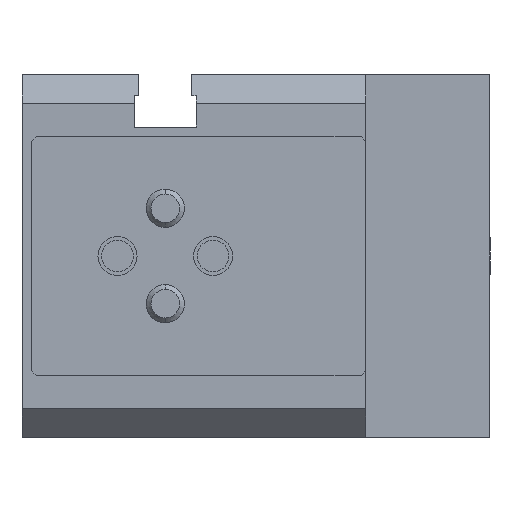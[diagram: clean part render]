
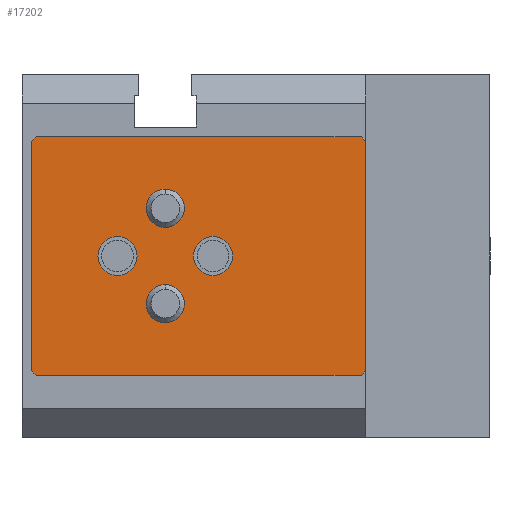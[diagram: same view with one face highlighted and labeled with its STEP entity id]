
A CAD part, left-side view. The second image highlights one B-rep face of the part: STEP entity #17202.
In plain terms, the highlighted planar face has unit normal (-1, 0, 0) as drawn and (1, 0, 0) by its records, which use the part's own axes.
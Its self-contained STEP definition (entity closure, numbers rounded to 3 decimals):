
#550 = ORIENTED_EDGE ( 'NONE', *, *, #3940, .T. ) ;
#817 = LINE ( 'NONE', #18068, #41611 ) ;
#886 = DIRECTION ( 'NONE',  ( 0., -1., 0. ) ) ;
#1083 = DIRECTION ( 'NONE',  ( 1., 0., 0. ) ) ;
#1132 = EDGE_CURVE ( 'NONE', #17517, #41977, #31952, .T. ) ;
#1932 = ORIENTED_EDGE ( 'NONE', *, *, #12465, .F. ) ;
#2385 = FACE_OUTER_BOUND ( 'NONE', #19472, .T. ) ;
#2740 = VERTEX_POINT ( 'NONE', #44765 ) ;
#2803 = DIRECTION ( 'NONE',  ( 1., 0., 0. ) ) ;
#2876 = CIRCLE ( 'NONE', #10666, 2.05 ) ;
#2929 = DIRECTION ( 'NONE',  ( 0., 0., -1. ) ) ;
#3118 = VERTEX_POINT ( 'NONE', #35902 ) ;
#3940 = EDGE_CURVE ( 'NONE', #22916, #3118, #42949, .T. ) ;
#4089 = AXIS2_PLACEMENT_3D ( 'NONE', #28922, #5237, #32903 ) ;
#4923 = CARTESIAN_POINT ( 'NONE',  ( 0., 26., -2.05 ) ) ;
#5030 = ORIENTED_EDGE ( 'NONE', *, *, #23771, .F. ) ;
#5049 = EDGE_LOOP ( 'NONE', ( #18552, #29722 ) ) ;
#5214 = DIRECTION ( 'NONE',  ( 0., 0., 1. ) ) ;
#5237 = DIRECTION ( 'NONE',  ( 1., 0., 0. ) ) ;
#6167 = CARTESIAN_POINT ( 'NONE',  ( 0., 21., 5. ) ) ;
#6341 = VERTEX_POINT ( 'NONE', #28539 ) ;
#7623 = CIRCLE ( 'NONE', #4089, 2. ) ;
#8153 = CARTESIAN_POINT ( 'NONE',  ( 0., 21., 3. ) ) ;
#8272 = CIRCLE ( 'NONE', #40607, 2.05 ) ;
#8410 = CARTESIAN_POINT ( 'NONE',  ( 0., 34.5, -12.5 ) ) ;
#8839 = CARTESIAN_POINT ( 'NONE',  ( 0., 0., -12.5 ) ) ;
#9046 = DIRECTION ( 'NONE',  ( 1., 0., 0. ) ) ;
#9711 = LINE ( 'NONE', #8839, #18995 ) ;
#10164 = DIRECTION ( 'NONE',  ( 0., 0., 1. ) ) ;
#10276 = CARTESIAN_POINT ( 'NONE',  ( 0., 0.5, -12.5 ) ) ;
#10418 = FACE_BOUND ( 'NONE', #16002, .T. ) ;
#10666 = AXIS2_PLACEMENT_3D ( 'NONE', #26493, #2803, #30463 ) ;
#11222 = VECTOR ( 'NONE', #2929, 1000. ) ;
#11569 = CARTESIAN_POINT ( 'NONE',  ( 0., 35., 12. ) ) ;
#11622 = CARTESIAN_POINT ( 'NONE',  ( 0., 0., 12.5 ) ) ;
#11637 = EDGE_CURVE ( 'NONE', #41977, #17517, #31069, .T. ) ;
#11857 = LINE ( 'NONE', #11622, #19906 ) ;
#11925 = ORIENTED_EDGE ( 'NONE', *, *, #30786, .F. ) ;
#12465 = EDGE_CURVE ( 'NONE', #18026, #28420, #21172, .T. ) ;
#12876 = CARTESIAN_POINT ( 'NONE',  ( 0., 0.5, -12.5 ) ) ;
#12933 = LINE ( 'NONE', #27363, #43218 ) ;
#12980 = EDGE_CURVE ( 'NONE', #15564, #3118, #26714, .T. ) ;
#13028 = VECTOR ( 'NONE', #50449, 1000. ) ;
#13787 = ORIENTED_EDGE ( 'NONE', *, *, #28714, .F. ) ;
#13972 = ORIENTED_EDGE ( 'NONE', *, *, #21425, .F. ) ;
#14168 = DIRECTION ( 'NONE',  ( 1., 0., 0. ) ) ;
#14278 = LINE ( 'NONE', #50276, #13028 ) ;
#14293 = DIRECTION ( 'NONE',  ( 0., -0.707, 0.707 ) ) ;
#15532 = CARTESIAN_POINT ( 'NONE',  ( 0., 21., -7. ) ) ;
#15564 = VERTEX_POINT ( 'NONE', #11569 ) ;
#15699 = CARTESIAN_POINT ( 'NONE',  ( 0., 21., -5. ) ) ;
#15836 = CARTESIAN_POINT ( 'NONE',  ( 0., 0.5, 12.5 ) ) ;
#15876 = CARTESIAN_POINT ( 'NONE',  ( 0., 26., 0. ) ) ;
#16002 = EDGE_LOOP ( 'NONE', ( #18638, #41620 ) ) ;
#16531 = ORIENTED_EDGE ( 'NONE', *, *, #29591, .F. ) ;
#16613 = AXIS2_PLACEMENT_3D ( 'NONE', #32714, #9046, #36715 ) ;
#17111 = EDGE_CURVE ( 'NONE', #15564, #6341, #12933, .T. ) ;
#17202 = ADVANCED_FACE ( 'NONE', ( #10418, #2385, #51299, #40744, #30217 ), #44630, .F. ) ;
#17517 = VERTEX_POINT ( 'NONE', #40251 ) ;
#18026 = VERTEX_POINT ( 'NONE', #12876 ) ;
#18068 = CARTESIAN_POINT ( 'NONE',  ( 0., 0., 12. ) ) ;
#18552 = ORIENTED_EDGE ( 'NONE', *, *, #47817, .F. ) ;
#18638 = ORIENTED_EDGE ( 'NONE', *, *, #1132, .F. ) ;
#18995 = VECTOR ( 'NONE', #886, 1000. ) ;
#19320 = CIRCLE ( 'NONE', #48361, 2. ) ;
#19472 = EDGE_LOOP ( 'NONE', ( #1932, #13972, #550, #39799, #19904, #21079, #16531, #43578 ) ) ;
#19501 = DIRECTION ( 'NONE',  ( 0., 0.707, 0.707 ) ) ;
#19519 = VERTEX_POINT ( 'NONE', #45993 ) ;
#19638 = DIRECTION ( 'NONE',  ( 0., 0., 1. ) ) ;
#19816 = DIRECTION ( 'NONE',  ( 0., 0., -1. ) ) ;
#19904 = ORIENTED_EDGE ( 'NONE', *, *, #17111, .T. ) ;
#19906 = VECTOR ( 'NONE', #39141, 1000. ) ;
#20792 = CARTESIAN_POINT ( 'NONE',  ( 0., 35., 12.5 ) ) ;
#21079 = ORIENTED_EDGE ( 'NONE', *, *, #31383, .F. ) ;
#21172 = LINE ( 'NONE', #10276, #40941 ) ;
#21425 = EDGE_CURVE ( 'NONE', #22916, #18026, #9711, .T. ) ;
#22033 = DIRECTION ( 'NONE',  ( 0., 0.707, 0.707 ) ) ;
#22916 = VERTEX_POINT ( 'NONE', #8410 ) ;
#23402 = AXIS2_PLACEMENT_3D ( 'NONE', #15699, #43306, #19638 ) ;
#23771 = EDGE_CURVE ( 'NONE', #46572, #19519, #42388, .T. ) ;
#24779 = CARTESIAN_POINT ( 'NONE',  ( 0., 21., -5. ) ) ;
#26183 = EDGE_LOOP ( 'NONE', ( #11925, #13787 ) ) ;
#26493 = CARTESIAN_POINT ( 'NONE',  ( 0., 16., 0. ) ) ;
#26714 = LINE ( 'NONE', #34760, #11222 ) ;
#26980 = CARTESIAN_POINT ( 'NONE',  ( 0., 21., 7. ) ) ;
#27363 = CARTESIAN_POINT ( 'NONE',  ( 0., 35., 12. ) ) ;
#27533 = DIRECTION ( 'NONE',  ( 0., -0.707, 0.707 ) ) ;
#27713 = CARTESIAN_POINT ( 'NONE',  ( 0., 16., 2.05 ) ) ;
#28420 = VERTEX_POINT ( 'NONE', #29470 ) ;
#28539 = CARTESIAN_POINT ( 'NONE',  ( 0., 34.5, 12.5 ) ) ;
#28714 = EDGE_CURVE ( 'NONE', #35728, #37652, #7623, .T. ) ;
#28767 = DIRECTION ( 'NONE',  ( 0., 0., 1. ) ) ;
#28898 = CARTESIAN_POINT ( 'NONE',  ( 0., 26., 2.05 ) ) ;
#28904 = DIRECTION ( 'NONE',  ( -1., 0., 0. ) ) ;
#28922 = CARTESIAN_POINT ( 'NONE',  ( 0., 21., 5. ) ) ;
#29470 = CARTESIAN_POINT ( 'NONE',  ( 0., 0., -12. ) ) ;
#29591 = EDGE_CURVE ( 'NONE', #2740, #32999, #817, .T. ) ;
#29722 = ORIENTED_EDGE ( 'NONE', *, *, #36184, .F. ) ;
#30217 = FACE_BOUND ( 'NONE', #26183, .T. ) ;
#30463 = DIRECTION ( 'NONE',  ( 0., 0., -1. ) ) ;
#30786 = EDGE_CURVE ( 'NONE', #37652, #35728, #19320, .T. ) ;
#31069 = CIRCLE ( 'NONE', #47283, 2. ) ;
#31106 = EDGE_LOOP ( 'NONE', ( #36751, #5030 ) ) ;
#31383 = EDGE_CURVE ( 'NONE', #32999, #6341, #11857, .T. ) ;
#31952 = CIRCLE ( 'NONE', #23402, 2. ) ;
#32147 = AXIS2_PLACEMENT_3D ( 'NONE', #20792, #28904, #5214 ) ;
#32714 = CARTESIAN_POINT ( 'NONE',  ( 0., 26., 0. ) ) ;
#32903 = DIRECTION ( 'NONE',  ( 0., 0., 1. ) ) ;
#32999 = VERTEX_POINT ( 'NONE', #15836 ) ;
#33851 = DIRECTION ( 'NONE',  ( 1., 0., 0. ) ) ;
#34760 = CARTESIAN_POINT ( 'NONE',  ( 0., 35., 12.5 ) ) ;
#35363 = EDGE_CURVE ( 'NONE', #28420, #2740, #14278, .T. ) ;
#35728 = VERTEX_POINT ( 'NONE', #8153 ) ;
#35902 = CARTESIAN_POINT ( 'NONE',  ( 0., 35., -12. ) ) ;
#36184 = EDGE_CURVE ( 'NONE', #41103, #51259, #50750, .T. ) ;
#36715 = DIRECTION ( 'NONE',  ( 0., 0., -1. ) ) ;
#36751 = ORIENTED_EDGE ( 'NONE', *, *, #40797, .F. ) ;
#37652 = VERTEX_POINT ( 'NONE', #26980 ) ;
#37846 = CARTESIAN_POINT ( 'NONE',  ( 0., 16., 0. ) ) ;
#39141 = DIRECTION ( 'NONE',  ( 0., 1., 0. ) ) ;
#39799 = ORIENTED_EDGE ( 'NONE', *, *, #12980, .F. ) ;
#40251 = CARTESIAN_POINT ( 'NONE',  ( 0., 21., -3. ) ) ;
#40607 = AXIS2_PLACEMENT_3D ( 'NONE', #15876, #43496, #19816 ) ;
#40744 = FACE_BOUND ( 'NONE', #5049, .T. ) ;
#40797 = EDGE_CURVE ( 'NONE', #19519, #46572, #2876, .T. ) ;
#40941 = VECTOR ( 'NONE', #14293, 1000. ) ;
#41103 = VERTEX_POINT ( 'NONE', #28898 ) ;
#41611 = VECTOR ( 'NONE', #22033, 1000. ) ;
#41620 = ORIENTED_EDGE ( 'NONE', *, *, #11637, .F. ) ;
#41697 = VECTOR ( 'NONE', #19501, 1000. ) ;
#41785 = DIRECTION ( 'NONE',  ( 0., 0., -1. ) ) ;
#41977 = VERTEX_POINT ( 'NONE', #15532 ) ;
#42388 = CIRCLE ( 'NONE', #45465, 2.05 ) ;
#42949 = LINE ( 'NONE', #47169, #41697 ) ;
#43218 = VECTOR ( 'NONE', #27533, 1000. ) ;
#43306 = DIRECTION ( 'NONE',  ( 1., 0., 0. ) ) ;
#43496 = DIRECTION ( 'NONE',  ( 1., 0., 0. ) ) ;
#43578 = ORIENTED_EDGE ( 'NONE', *, *, #35363, .F. ) ;
#44630 = PLANE ( 'NONE',  #32147 ) ;
#44765 = CARTESIAN_POINT ( 'NONE',  ( 0., 0., 12. ) ) ;
#45465 = AXIS2_PLACEMENT_3D ( 'NONE', #37846, #14168, #41785 ) ;
#45993 = CARTESIAN_POINT ( 'NONE',  ( 0., 16., -2.05 ) ) ;
#46572 = VERTEX_POINT ( 'NONE', #27713 ) ;
#47169 = CARTESIAN_POINT ( 'NONE',  ( 0., 34.5, -12.5 ) ) ;
#47283 = AXIS2_PLACEMENT_3D ( 'NONE', #24779, #1083, #28767 ) ;
#47817 = EDGE_CURVE ( 'NONE', #51259, #41103, #8272, .T. ) ;
#48361 = AXIS2_PLACEMENT_3D ( 'NONE', #6167, #33851, #10164 ) ;
#50276 = CARTESIAN_POINT ( 'NONE',  ( 0., 0., 12.5 ) ) ;
#50449 = DIRECTION ( 'NONE',  ( 0., 0., 1. ) ) ;
#50750 = CIRCLE ( 'NONE', #16613, 2.05 ) ;
#51259 = VERTEX_POINT ( 'NONE', #4923 ) ;
#51299 = FACE_BOUND ( 'NONE', #31106, .T. ) ;
